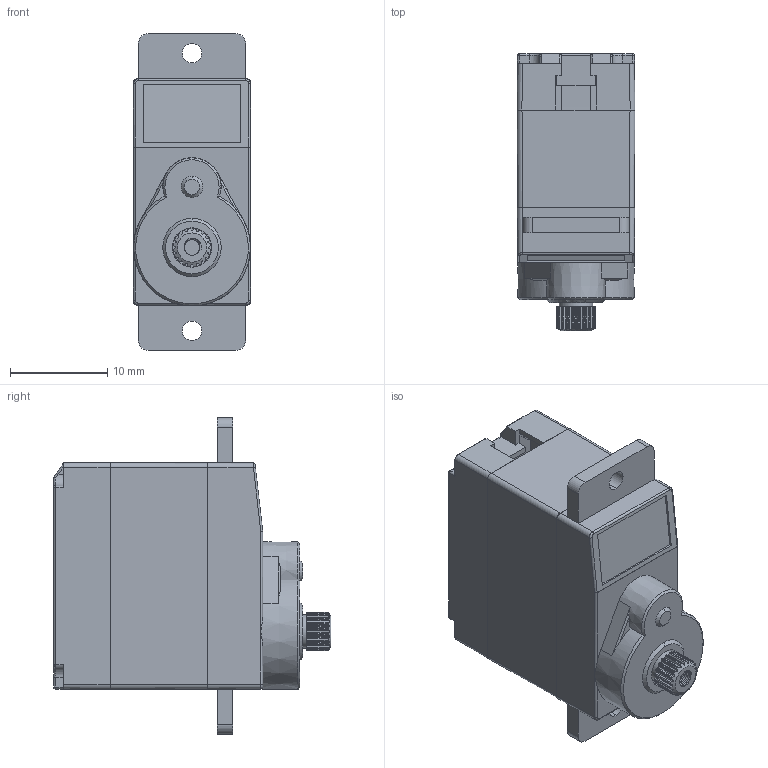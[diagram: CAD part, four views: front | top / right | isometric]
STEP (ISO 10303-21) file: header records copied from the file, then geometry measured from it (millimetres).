
FILE_DESCRIPTION(/* description */ (''),/* implementation_level */ '2;1');
FILE_NAME(/* name */ 'SC09-SERVO.step',/* time_stamp */ '2023-04-21T19:22:11+08:00',/* author */ (''),/* organization */ (''),/* preprocessor_version */ 'ST-DEVELOPER v19.2',/* originating_system */ 'Autodesk Translation Framework v12.4.0.73',/* authorisation */ '');
FILE_SCHEMA (('AUTOMOTIVE_DESIGN { 1 0 10303 214 3 1 1 }'));
Length unit declared in the file: millimetre
Products named in the file (8): FT1190M-20201118-S; FT90M-C001-20201118_ASM_1_ASM; FT90M-C001_ASM_3_ASM_1_ASM; SJ-WK00-0038-TOPCASE-0716_41_1; SJ-WK00-0039-COREMIDDLE-0716_65; SJ-WK00-0037-BOTTOMCASE-0716_9_; OUTPUTGEAR_ASM_11_ASM_1_ASM; SJ-CL00-0027-OUTPUTGEAR-0716_37
Assembly tree (7 placements, depth 5):
  FT1190M-20201118-S
    FT90M-C001-20201118_ASM_1_ASM
      FT90M-C001_ASM_3_ASM_1_ASM
        SJ-WK00-0038-TOPCASE-0716_41_1
        SJ-WK00-0039-COREMIDDLE-0716_65
        SJ-WK00-0037-BOTTOMCASE-0716_9_
        OUTPUTGEAR_ASM_11_ASM_1_ASM
          SJ-CL00-0027-OUTPUTGEAR-0716_37
Bounding box: 12.1 x 28.51 x 32.5 mm (x, y, z)
Volume: 2152.5 mm3; surface area: 5302.8 mm2
Topology: 4 solids, 4 shells, 906 faces, 2522 edges, 1654 vertices
Faces by surface type: plane 403, cylinder 351, bspline 94, cone 39, sphere 12, torus 7
Full cylindrical faces by diameter (mm): 1.5 x1, 1.6 x12, 1.8 x1, 3 x1, 3.45 x1, 4 x1, 4.03 x1
Entity records: 37176 total; most frequent: CARTESIAN_POINT 13992, ORIENTED_EDGE 5040, DIRECTION 4606, EDGE_CURVE 2520, VERTEX_POINT 1654, AXIS2_PLACEMENT_3D 1625, LINE 1356, VECTOR 1356
